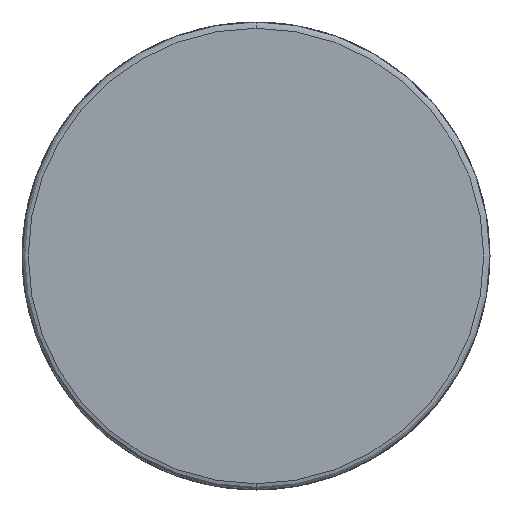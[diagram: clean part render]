
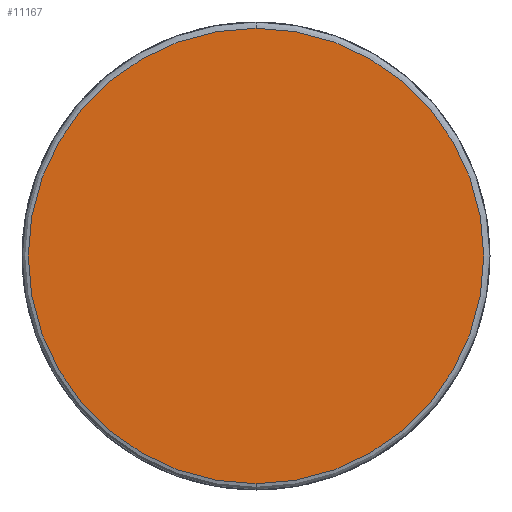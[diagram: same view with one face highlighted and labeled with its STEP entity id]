
A CAD part, front view. The second image highlights one B-rep face of the part: STEP entity #11167.
In plain terms, the highlighted planar face has unit normal (0, -1, 0).
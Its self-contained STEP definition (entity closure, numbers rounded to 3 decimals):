
#451 = AXIS2_PLACEMENT_3D ( 'NONE', #6469, #19285, #8329 ) ;
#646 = PLANE ( 'NONE',  #11690 ) ;
#2581 = CARTESIAN_POINT ( 'NONE',  ( 0., 0., 14.6 ) ) ;
#4373 = CARTESIAN_POINT ( 'NONE',  ( 0., 0., -14.6 ) ) ;
#4410 = DIRECTION ( 'NONE',  ( 0., 1., 0. ) ) ;
#5619 = EDGE_CURVE ( 'NONE', #9225, #15628, #19016, .T. ) ;
#6469 = CARTESIAN_POINT ( 'NONE',  ( 0., 0., 0. ) ) ;
#6563 = FACE_OUTER_BOUND ( 'NONE', #7728, .T. ) ;
#7728 = EDGE_LOOP ( 'NONE', ( #20816, #8539 ) ) ;
#7879 = EDGE_CURVE ( 'NONE', #15628, #9225, #11812, .T. ) ;
#8329 = DIRECTION ( 'NONE',  ( 0., 0., 1. ) ) ;
#8539 = ORIENTED_EDGE ( 'NONE', *, *, #7879, .T. ) ;
#9225 = VERTEX_POINT ( 'NONE', #2581 ) ;
#9318 = DIRECTION ( 'NONE',  ( 0., -1., 0. ) ) ;
#11167 = ADVANCED_FACE ( 'NONE', ( #6563 ), #646, .F. ) ;
#11690 = AXIS2_PLACEMENT_3D ( 'NONE', #15408, #4410, #17246 ) ;
#11812 = CIRCLE ( 'NONE', #451, 14.6 ) ;
#15408 = CARTESIAN_POINT ( 'NONE',  ( 0., 0., 0. ) ) ;
#15628 = VERTEX_POINT ( 'NONE', #4373 ) ;
#17246 = DIRECTION ( 'NONE',  ( 0., 0., 1. ) ) ;
#18249 = AXIS2_PLACEMENT_3D ( 'NONE', #20293, #9318, #22145 ) ;
#19016 = CIRCLE ( 'NONE', #18249, 14.6 ) ;
#19285 = DIRECTION ( 'NONE',  ( 0., -1., 0. ) ) ;
#20293 = CARTESIAN_POINT ( 'NONE',  ( 0., 0., 0. ) ) ;
#20816 = ORIENTED_EDGE ( 'NONE', *, *, #5619, .T. ) ;
#22145 = DIRECTION ( 'NONE',  ( 0., 0., 1. ) ) ;
